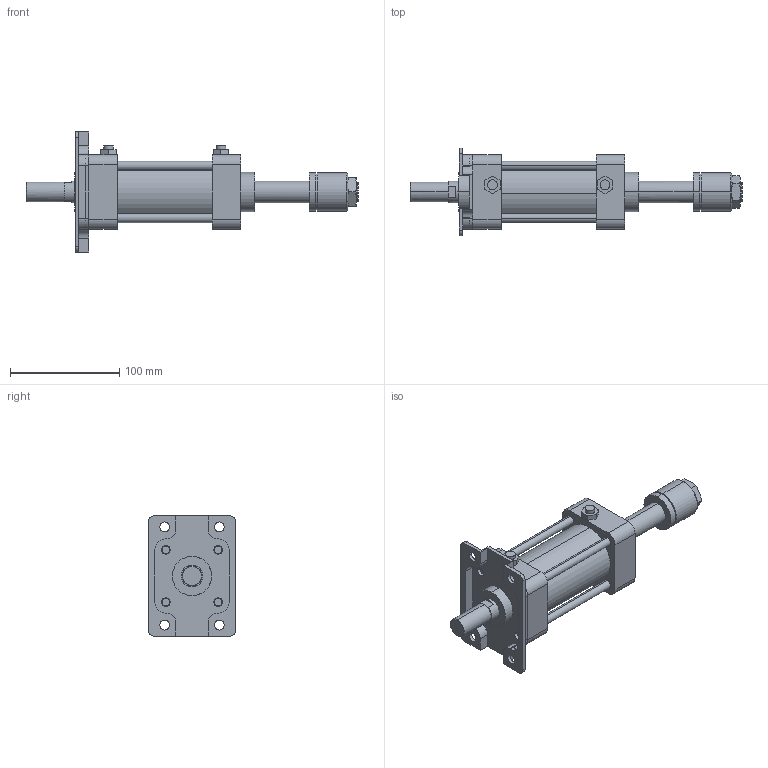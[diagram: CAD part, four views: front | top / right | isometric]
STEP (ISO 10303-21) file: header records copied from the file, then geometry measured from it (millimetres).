
FILE_DESCRIPTION (( 'STEP AP203' ), '1' );
FILE_NAME ('KGA7-50#-50-A.STEP', '2016-04-14T07:49:18', ( '' ), ( '' ), 'SwSTEP 2.0', 'SolidWorks 2014', '' );
FILE_SCHEMA (( 'CONFIG_CONTROL_DESIGN' ));
Length unit declared in the file: millimetre
Products named in the file (9): KGA7-50(63)-Turn; KGLH2-50-50; K#7-50-50-After; KGA7-50#-50-A; K-50-AB
Assembly tree (18 placements, depth 2):
  KGA7-50#-50-A
    K#7-50-50-After
    KGLH2-50-50
    (unnamed)
    (unnamed)  x4
    (unnamed)  x8
    K-50-AB
    KGA7-50(63)-Turn
    (unnamed)
Bounding box: 304 x 80 x 110 mm (x, y, z)
Volume: 522737.7 mm3; surface area: 137038.5 mm2
Topology: 18 solids, 22 shells, 447 faces, 1068 edges, 684 vertices
Faces by surface type: plane 193, cylinder 180, torus 46, cone 28
Entity records: 12231 total; most frequent: CARTESIAN_POINT 2294, DIRECTION 1906, ORIENTED_EDGE 1756, EDGE_CURVE 878, AXIS2_PLACEMENT_3D 716, VERTEX_POINT 574, VECTOR 474, LINE 474
